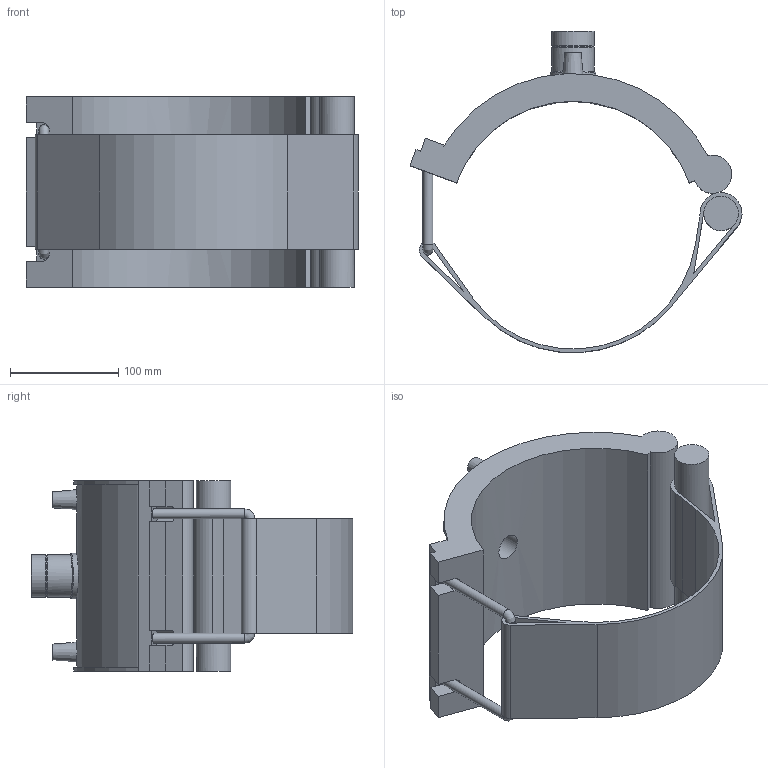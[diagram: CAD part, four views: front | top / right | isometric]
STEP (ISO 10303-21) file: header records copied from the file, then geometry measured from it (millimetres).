
FILE_DESCRIPTION(/* description */ ('PLASSON TRANSITION SADDLE 8''''DIPS x 1"NPT'),/* implementation_level */ '2;1');
FILE_NAME(/* name */ 'C:\Dropbox\KIMPROJECTS-Inventor 2019\99-16-3568-Processing Inch\ASTM ElectroFusion 2021\5938D\5938D00308045.ipt.stp',/* time_stamp */ '2021-08-30T09:52:09+03:00',/* author */ ('KIM'),/* organization */ (''),/* preprocessor_version */ 'ST-DEVELOPER v17.2',/* originating_system */ 'Autodesk Inventor 2019',/* authorisation */ '');
FILE_SCHEMA (('AUTOMOTIVE_DESIGN { 1 0 10303 214 3 1 1 }'));
Length unit declared in the file: inch
Products named in the file (1): 5938D00308045
Bounding box: 306.75 x 296.96 x 176.02 mm (x, y, z)
Volume: 1869861.6 mm3; surface area: 306215.7 mm2
Topology: 1 solids, 1 shells, 78 faces, 196 edges, 128 vertices
Faces by surface type: plane 42, cylinder 28, cone 5, torus 2, bspline 1
Full cylindrical faces by diameter (mm): 4 x2, 9.156 x2, 10 x2, 24.233 x1, 30.291 x1, 31.87 x1, 38.378 x1, 39.378 x2, 42.407 x1
Entity records: 2760 total; most frequent: CARTESIAN_POINT 769, DIRECTION 414, ORIENTED_EDGE 394, EDGE_CURVE 197, AXIS2_PLACEMENT_3D 150, VERTEX_POINT 128, LINE 114, VECTOR 114
